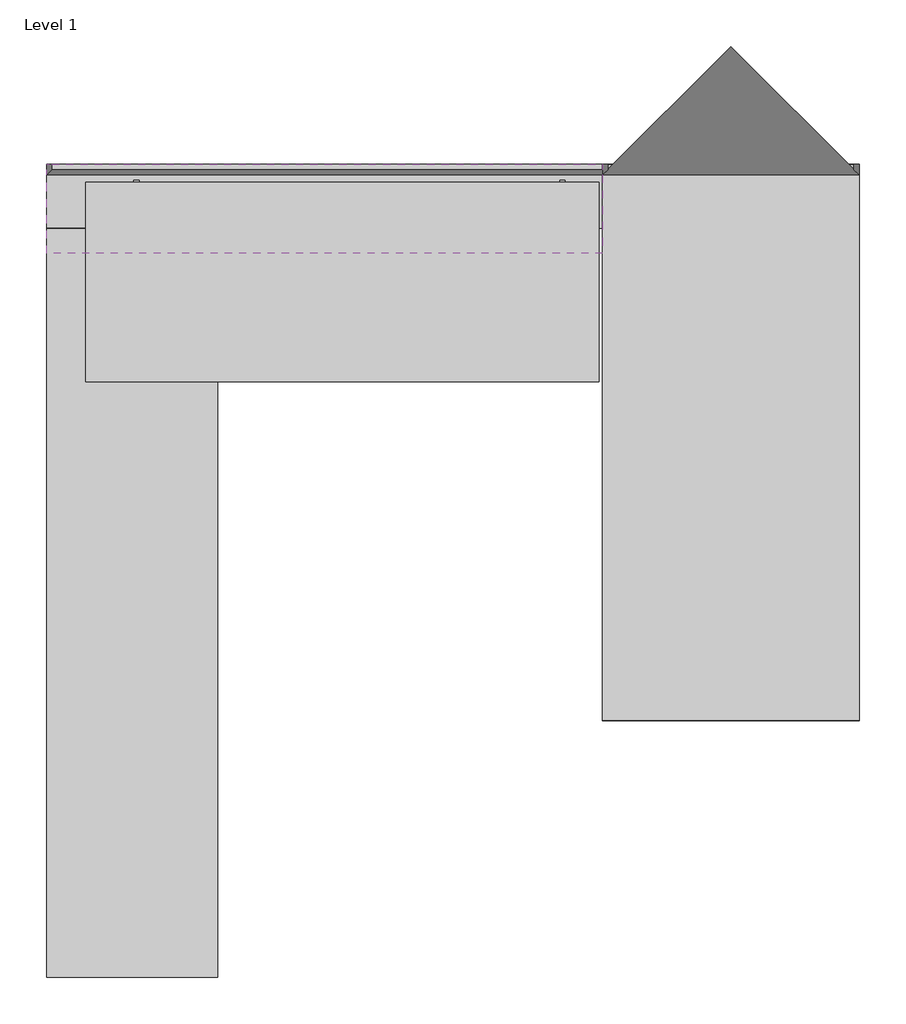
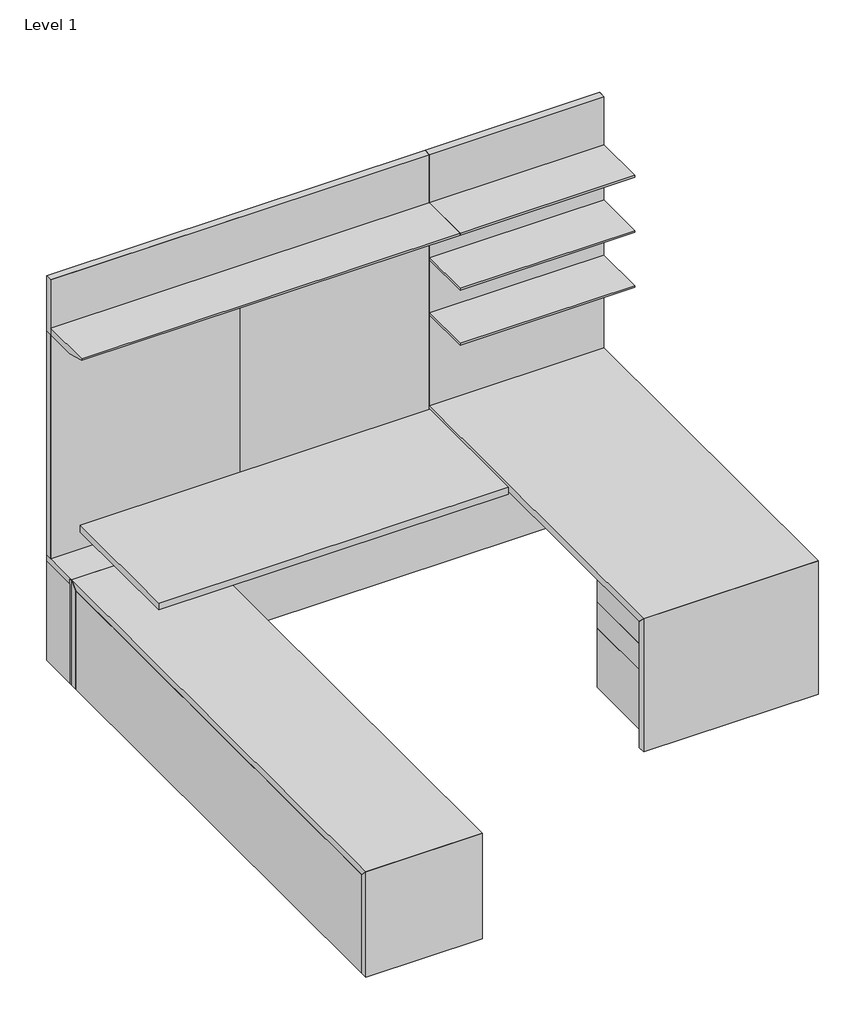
# One storey, incomplete: 11 proxies.
"""IFC4 building model written with IfcOpenShell, lengths in millimetres."""

from ifc_helpers import new_model, si_unit, origin, place, context, project, spatial, transform, mapped, element, save
from components import generic_models_fffcd645, generic_models_8ad9102e, generic_models_b7273189, generic_models_e00c9031, generic_models_ddd470e9, generic_models_a4852ea4, generic_models_7188f9cc, generic_models_0208513f, generic_models_31887420, generic_models_a146d820, generic_models_5d9d723c

model = new_model("IFC4")

# Units and contexts
model_context = context("Model", 3, world=origin())
ifc_project = project(units=[si_unit("LENGTHUNIT", "METRE", prefix="MILLI")], contexts=[model_context])

# Site, building, storey
site = spatial("IfcSite", under=ifc_project)
building = spatial("IfcBuilding", under=site)
storey = spatial("IfcBuildingStorey", under=building, Name="Level 1", Elevation=0.0)

# Proxies
placement = place(None, origin())
generic_models_shape = generic_models_fffcd645(model_context)
element("IfcBuildingElementProxy", 1, Name="AERO^OFFICE 4_78 WALL HUNG-SHELF", ObjectType="AERO^OFFICE 4_78 WALL HUNG-SHELF", at=placement, inside=storey, context=model_context, shape_type="MappedRepresentation", body=[
    mapped(generic_models_shape, transform((0.0, -38.1, 1822.45), x_axis=(1.0, -1.8947945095e-12, 0.0), y_axis=(0.0, 0.0, 1.0), z_axis=(-1.8947945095e-12, -1.0, 0.0))),
])
generic_models_2_shape = generic_models_8ad9102e(model_context)
element("IfcBuildingElementProxy", 2, Name="AERO^OFFICE 4_25x78 HAT BRIDGE-WORKSURFACE", ObjectType="AERO^OFFICE 4_25x78 HAT BRIDGE-WORKSURFACE", at=placement, inside=storey, context=model_context, shape_type="MappedRepresentation", body=[
    mapped(generic_models_2_shape, transform((139.7, -774.7, 698.5), x_axis=(1.0, -1.894795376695e-12, 0.0), y_axis=(0.0, 0.0, 1.0), z_axis=(-1.894795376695e-12, -1.0, 0.0))),
])
generic_models_3_shape = generic_models_b7273189(model_context)
element("IfcBuildingElementProxy", 3, Name="SS LIFT ANGLE_18_LT_OMT_LINAK", ObjectType="SS LIFT ANGLE_18_LT_OMT_LINAK", at=placement, inside=storey, context=model_context, shape_type="MappedRepresentation", body=[
    mapped(generic_models_3_shape, transform((398.65, -78.8352, 698.5), x_axis=(-1.895475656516e-12, -1.0, 0.0), y_axis=(0.0, 0.0, 1.0), z_axis=(-1.0, 1.895475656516e-12, 0.0))),
])
generic_models_4_shape = generic_models_e00c9031(model_context)
element("IfcBuildingElementProxy", 4, Name="AERO^OFFICE 4_25x78 HAT SHROUD-PARTS SOLID", ObjectType="AERO^OFFICE 4_25x78 HAT SHROUD-PARTS SOLID", at=placement, inside=storey, context=model_context, shape_type="MappedRepresentation", body=[
    mapped(generic_models_4_shape, transform((311.15, -177.8, 165.1), x_axis=(1.0, 0.0, 0.0), y_axis=(0.0, 0.0, 1.0), z_axis=(0.0, -1.0, 0.0))),
])
generic_models_5_shape = generic_models_ddd470e9(model_context)
element("IfcBuildingElementProxy", 5, Name="SS LIFT ANGLE_18_RT_OMT_LINAK", ObjectType="SS LIFT ANGLE_18_RT_OMT_LINAK", at=placement, inside=storey, context=model_context, shape_type="MappedRepresentation", body=[
    mapped(generic_models_5_shape, transform((1785.75, -78.8352, 698.5), x_axis=(0.0, -1.0, 0.0), y_axis=(0.0, 0.0, 1.0), z_axis=(-1.0, 0.0, 0.0))),
])
generic_models_6_shape = generic_models_a4852ea4(model_context)
element("IfcBuildingElementProxy", 6, Name="AERO^OFFICE 4_78 WALL HUNG-LEFT TACK", ObjectType="AERO^OFFICE 4_78 WALL HUNG-LEFT TACK", at=placement, inside=storey, context=model_context, shape_type="MappedRepresentation", body=[
    mapped(generic_models_6_shape, transform((0.0, -19.05, 584.2), x_axis=(1.0, 0.0, 0.0), y_axis=(0.0, 0.0, 1.0), z_axis=(0.0, -1.0, 0.0))),
])
generic_models_7_shape = generic_models_7188f9cc(model_context)
element("IfcBuildingElementProxy", 7, Name="AERO^OFFICE 4_36x78 DESK PED RT HAT BRIDGE-PARTS SOLID", ObjectType="AERO^OFFICE 4_36x78 DESK PED RT HAT BRIDGE-PARTS SOLID", at=placement, inside=storey, context=model_context, shape_type="MappedRepresentation", body=[
    mapped(generic_models_7_shape, transform((1981.2, -1981.2, 698.5), x_axis=(1.0, -1.892945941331e-12, 0.0), y_axis=(0.0, 0.0, 1.0), z_axis=(-1.892945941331e-12, -1.0, 0.0))),
])
generic_models_8_shape = generic_models_0208513f(model_context)
element("IfcBuildingElementProxy", 8, Name="AERO^OFFICE 4_25x78 HAT BRIDGE-WIRE TROUGH", ObjectType="AERO^OFFICE 4_25x78 HAT BRIDGE-WIRE TROUGH", at=placement, inside=storey, context=model_context, shape_type="MappedRepresentation", body=[
    mapped(generic_models_8_shape, transform((1574.7999977, -177.8, 649.2875), x_axis=(0.0, -1.0, 0.0), y_axis=(0.0, 0.0, 1.0), z_axis=(-1.0, 0.0, 0.0))),
])
generic_models_9_shape = generic_models_31887420(model_context)
element("IfcBuildingElementProxy", 9, Name="AERO^OFFICE 4_112 CREDENZA LEFT-PARTS SOLID", ObjectType="AERO^OFFICE 4_112 CREDENZA LEFT-PARTS SOLID", at=placement, inside=storey, context=model_context, shape_type="MappedRepresentation", body=[
    mapped(generic_models_9_shape, transform((0.0, 216.7278246, 0.0), x_axis=(1.0, 0.0, 0.0), y_axis=(0.0, 0.0, 1.0), z_axis=(0.0, -1.0, 0.0))),
])
generic_models_10_shape = generic_models_a146d820(model_context)
element("IfcBuildingElementProxy", 10, Name="AERO^OFFICE 4_25x78 HAT BRIDGE-PARTS SOLID", ObjectType="AERO^OFFICE 4_25x78 HAT BRIDGE-PARTS SOLID", at=placement, inside=storey, context=model_context, shape_type="MappedRepresentation", body=[
    mapped(generic_models_10_shape, transform((0.0, 0.0, 546.1), x_axis=(1.0, -1.895168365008e-12, 0.0), y_axis=(0.0, 0.0, 1.0), z_axis=(-1.895168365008e-12, -1.0, 0.0))),
])
generic_models_11_shape = generic_models_5d9d723c(model_context)
element("IfcBuildingElementProxy", 11, Name="AERO^OFFICE 4_36 WALL HUNG-SHELF", ObjectType="AERO^OFFICE 4_36 WALL HUNG-SHELF", at=placement, inside=storey, context=model_context, shape_type="MappedRepresentation", body=[
    mapped(generic_models_11_shape, transform((1981.2, -38.1, 1517.65), x_axis=(1.0, -1.8947945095e-12, 0.0), y_axis=(0.0, 0.0, 1.0), z_axis=(-1.8947945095e-12, -1.0, 0.0))),
])

save(model, "model.ifc")
